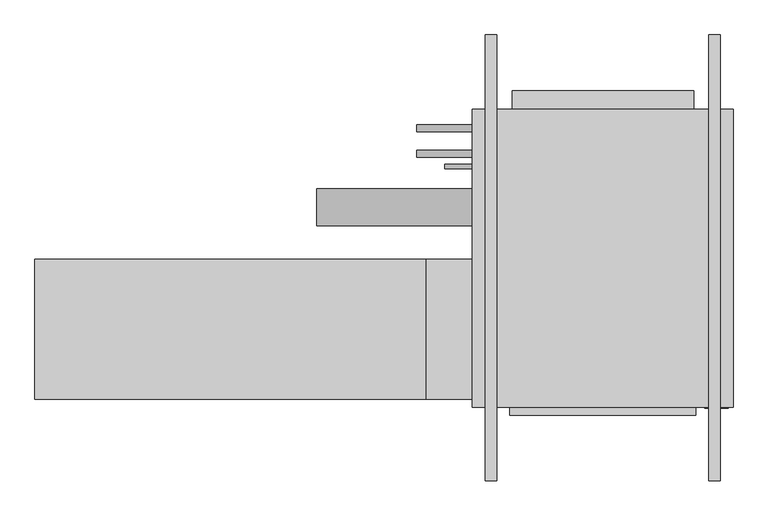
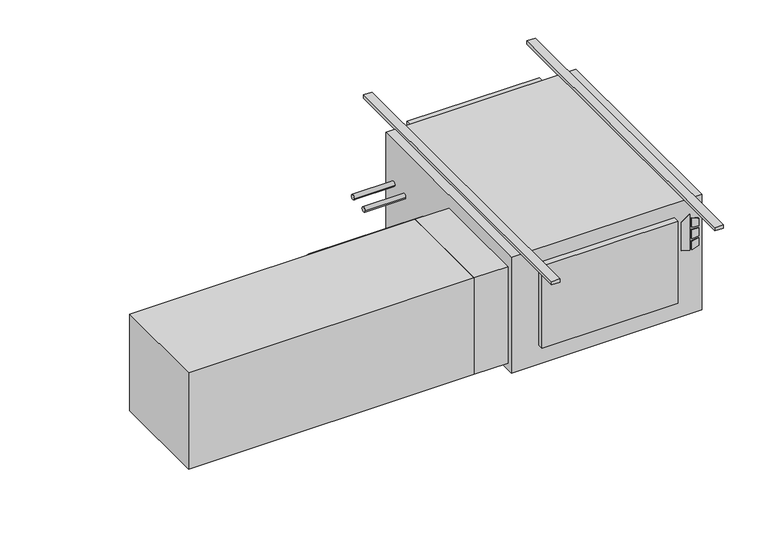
"""IFC4 building model written with IfcOpenShell, lengths in millimetres: proxy geometry."""

from ifc_helpers import new_model, si_unit, point, frame, frame_2d, origin, origin_with_axes, place, context, project, spatial, polyline, circle_curve, trimmed, segment, composite_curve, outline, extrude, source, transform, mapped, element, save


def mechanical_equipment_9c1fd06b(model_context):
    return source(origin(), model_context, "Body", "SweptSolid", [
        extrude(outline(polyline([(-193.2519297, 430.2868862), (-203.2, 462.4602728), (-61.0290756, 462.4602728), (-84.0510817, 430.2868862), (-193.2519297, 430.2868862)])), frame((0.0, -647.7, 0.0), z_axis=(0.0, 1.0, 0.0), x_axis=(0.0, 0.0, 1.0)), (0.0, 0.0, 1.0), 3.175),
        extrude(outline(polyline([(-114.2526443, 469.2186058), (-117.4550368, 495.3), (-88.2261958, 495.3), (-80.1617807, 469.2186058), (-114.2526443, 469.2186058)])), frame((0.0, -647.7, 0.0), z_axis=(0.0, 1.0, 0.0), x_axis=(0.0, 0.0, 1.0)), (0.0, 0.0, 1.0), 3.175),
        extrude(outline(polyline([(-166.1161712, 495.3), (-169.7816721, 469.2186058), (-203.2, 469.2186058), (-194.5657628, 495.3), (-166.1161712, 495.3)])), frame((0.0, -647.7, 0.0), z_axis=(0.0, 1.0, 0.0), x_axis=(0.0, 0.0, 1.0)), (0.0, 0.0, 1.0), 3.175),
        extrude(outline(polyline([(-126.8010097, 495.3), (-124.5191834, 469.2186058), (-160.4567319, 469.2186058), (-157.7154669, 495.3), (-126.8010097, 495.3)])), frame((0.0, -647.7, 0.0), z_axis=(0.0, 1.0, 0.0), x_axis=(0.0, 0.0, 1.0)), (0.0, 0.0, 1.0), 3.175),
        extrude(outline(polyline([(406.4, -666.877), (-101.6, -666.877), (-101.6, -644.525), (406.4, -644.525), (406.4, -666.877)])), frame((0.0, 0.0, -381.0), z_axis=(0.0, 0.0, 1.0), x_axis=(1.0, 0.0, 0.0)), (0.0, 0.0, 1.0), 323.85),
        extrude(outline(polyline([(-1397.0, -622.3), (-1397.0, -241.3), (-330.2, -241.3), (-330.2, -622.3), (-1397.0, -622.3)])), frame((0.0, 0.0, -431.8), z_axis=(0.0, 0.0, 1.0), x_axis=(1.0, 0.0, 0.0)), (0.0, 0.0, 1.0), 381.0),
        extrude(outline(polyline([(-203.2, -241.3), (-203.2, -622.3), (-330.2, -622.3), (-330.2, -241.3), (-203.2, -241.3)])), frame((0.0, 0.0, -431.8), z_axis=(0.0, 0.0, 1.0), x_axis=(1.0, 0.0, 0.0)), (0.0, 0.0, 1.0), 381.0),
        extrude(outline(composite_curve([segment(trimmed(circle_curve(frame_2d((-98.4896516, -228.6360165)), 50.8), [point((-149.2896516, -228.6360165))], [point((-47.6896516, -228.6360165))], False, "CARTESIAN"), True, "CONTINUOUS"), segment(trimmed(circle_curve(frame_2d((-98.4896516, -228.6360165)), 50.8), [point((-47.6896516, -228.6360165))], [point((-149.2896516, -228.6360165))], False, "CARTESIAN"), True, "CONTINUOUS")], self_intersect=False)), frame((-628.65, 0.0, 0.0), z_axis=(1.0, 0.0, 0.0), x_axis=(0.0, 1.0, 0.0)), (0.0, 0.0, 1.0), 425.45),
        extrude(outline(composite_curve([segment(trimmed(circle_curve(frame_2d((47.625, -177.8)), 9.525), [point((38.1, -177.8))], [point((57.15, -177.8))], False, "CARTESIAN"), True, "CONTINUOUS"), segment(trimmed(circle_curve(frame_2d((47.625, -177.8)), 9.525), [point((57.15, -177.8))], [point((38.1, -177.8))], False, "CARTESIAN"), True, "CONTINUOUS")], self_intersect=False)), frame((-355.6, 0.0, 0.0), z_axis=(1.0, 0.0, 0.0), x_axis=(0.0, 1.0, 0.0)), (0.0, 0.0, 1.0), 152.4),
        extrude(outline(composite_curve([segment(trimmed(circle_curve(frame_2d((117.475, -171.45)), 9.525), [point((107.95, -171.45))], [point((127.0, -171.45))], False, "CARTESIAN"), True, "CONTINUOUS"), segment(trimmed(circle_curve(frame_2d((117.475, -171.45)), 9.525), [point((127.0, -171.45))], [point((107.95, -171.45))], False, "CARTESIAN"), True, "CONTINUOUS")], self_intersect=False)), frame((-355.6, 0.0, 0.0), z_axis=(1.0, 0.0, 0.0), x_axis=(0.0, 1.0, 0.0)), (0.0, 0.0, 1.0), 152.4),
        extrude(outline(composite_curve([segment(trimmed(circle_curve(frame_2d((12.7, -409.575)), 6.35), [point((6.35, -409.575))], [point((19.05, -409.575))], False, "CARTESIAN"), True, "CONTINUOUS"), segment(trimmed(circle_curve(frame_2d((12.7, -409.575)), 6.35), [point((19.05, -409.575))], [point((6.35, -409.575))], False, "CARTESIAN"), True, "CONTINUOUS")], self_intersect=False)), frame((-279.4, 0.0, 0.0), z_axis=(1.0, 0.0, 0.0), x_axis=(0.0, 1.0, 0.0)), (0.0, 0.0, 1.0), 76.2),
        extrude(outline(polyline([(508.0, 168.275), (508.0, -644.525), (-203.2, -644.525), (-203.2, 168.275), (508.0, 168.275)])), frame((0.0, 0.0, -457.2), z_axis=(0.0, 0.0, 1.0), x_axis=(1.0, 0.0, 0.0)), (0.0, 0.0, 1.0), 457.2),
        extrude(outline(polyline([(-95.25, 219.075), (400.05, 219.075), (400.05, 168.275), (-95.25, 168.275), (-95.25, 219.075)])), frame((0.0, 0.0, -381.0), z_axis=(0.0, 0.0, 1.0), x_axis=(1.0, 0.0, 0.0)), (0.0, 0.0, 1.0), 355.6),
        extrude(outline(polyline([(-136.525, 371.475), (-136.525, -844.677), (-168.275, -844.677), (-168.275, 371.475), (-136.525, 371.475)])), origin_with_axes(), (0.0, 0.0, 1.0), 12.7),
        extrude(outline(polyline([(473.075, 371.475), (473.075, -844.677), (441.325, -844.677), (441.325, 371.475), (473.075, 371.475)])), origin_with_axes(), (0.0, 0.0, 1.0), 12.7),
    ])


if __name__ == "__main__":
    model = new_model("IFC4")
    model_context = context("Model", 3, world=origin())
    ifc_project = project(units=[si_unit("LENGTHUNIT", "METRE", prefix="MILLI")], contexts=[model_context])
    site = spatial("IfcSite", under=ifc_project)
    building = spatial("IfcBuilding", under=site)
    placement = place(None, origin())
    mechanical_equipment_shape = mechanical_equipment_9c1fd06b(model_context)
    element("IfcBuildingElementProxy", 1, Name="High_Capacity_Horizontal_Cabinet_Fan_Coil_Unit_-_HTY_-_IEC_-_2-Pipe_LH Side_2022 : Size 08 - 115v/60Hz/1Ph - 4/0 Coil - 4\" AirIn", ObjectType="High_Capacity_Horizontal_Cabinet_Fan_Coil_Unit_-_HTY_-_IEC_-_2-Pipe_LH Side_2022 : Size 08 - 115v/60Hz/1Ph - 4/0 Coil - 4\" AirIn", at=placement, inside=building, context=model_context, shape_type="MappedRepresentation", body=[
        mapped(mechanical_equipment_shape, transform((0.0, 0.0, 0.0), x_axis=(1.0, 0.0, 0.0), y_axis=(0.0, 1.0, 0.0), z_axis=(0.0, 0.0, 1.0))),
    ])
    save(model, "model.ifc")
